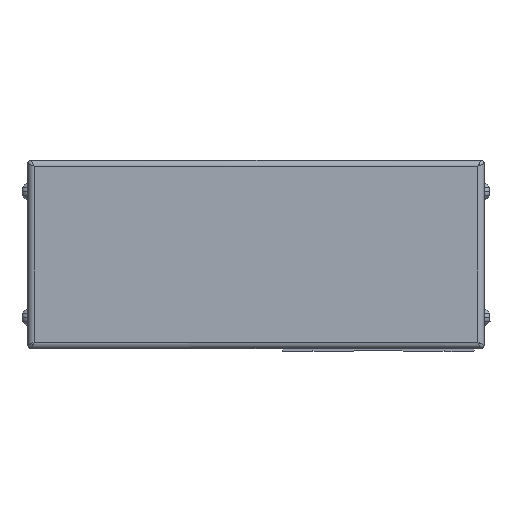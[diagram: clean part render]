
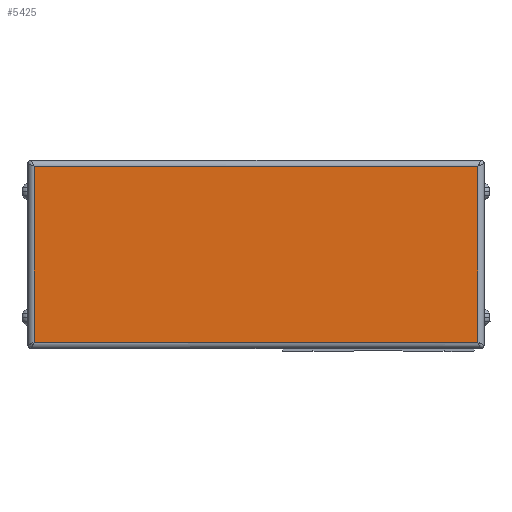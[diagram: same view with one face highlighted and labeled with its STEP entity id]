
A CAD part, left-side view. The second image highlights one B-rep face of the part: STEP entity #5425.
In plain terms, the highlighted planar face has unit normal (-1, 0, 0).
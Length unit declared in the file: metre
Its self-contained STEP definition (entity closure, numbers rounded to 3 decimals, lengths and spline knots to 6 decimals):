
#5425=ADVANCED_FACE('',(#11098),#11099,.T.);
#11098=FACE_OUTER_BOUND('',#20641,.T.);
#11099=PLANE('',#20642);
#20641=EDGE_LOOP('',(#33550,#33551,#33552,#33553));
#20642=AXIS2_PLACEMENT_3D('',#33554,#33555,#33556);
#33550=ORIENTED_EDGE('',*,*,#42833,.T.);
#33551=ORIENTED_EDGE('',*,*,#45943,.T.);
#33552=ORIENTED_EDGE('',*,*,#43639,.T.);
#33553=ORIENTED_EDGE('',*,*,#45944,.T.);
#33554=CARTESIAN_POINT('',(-0.054,0.039,-0.001));
#33555=DIRECTION('',(-1.0,0.0,0.0));
#33556=DIRECTION('',(0.0,0.,1.0));
#42833=EDGE_CURVE('',#50534,#50539,#50541,.T.);
#43639=EDGE_CURVE('',#51086,#51826,#51828,.T.);
#45943=EDGE_CURVE('',#50539,#51086,#55235,.T.);
#45944=EDGE_CURVE('',#51826,#50534,#55236,.T.);
#50534=VERTEX_POINT('',#61408);
#50539=VERTEX_POINT('',#61429);
#50541=LINE('',#61447,#61448);
#51086=VERTEX_POINT('',#62225);
#51826=VERTEX_POINT('',#63258);
#51828=LINE('',#63276,#63277);
#55235=LINE('',#68604,#68605);
#55236=LINE('',#68606,#68607);
#61408=CARTESIAN_POINT('',(-0.054,-0.0317,0.027));
#61429=CARTESIAN_POINT('',(-0.054,0.1097,0.027));
#61447=CARTESIAN_POINT('',(-0.054,0.039,0.027));
#61448=VECTOR('',#73957,1.0);
#62225=CARTESIAN_POINT('',(-0.054,0.1097,-0.029));
#63258=CARTESIAN_POINT('',(-0.054,-0.0317,-0.029));
#63276=CARTESIAN_POINT('',(-0.054,0.039,-0.029));
#63277=VECTOR('',#74953,1.0);
#68604=CARTESIAN_POINT('',(-0.054,0.1097,-0.001));
#68605=VECTOR('',#77434,1.0);
#68606=CARTESIAN_POINT('',(-0.054,-0.0317,-0.001));
#68607=VECTOR('',#77435,1.0);
#73957=DIRECTION('',(0.0,1.0,0.));
#74953=DIRECTION('',(0.0,-1.0,0.));
#77434=DIRECTION('',(0.0,0.,-1.0));
#77435=DIRECTION('',(0.0,0.,1.0));
